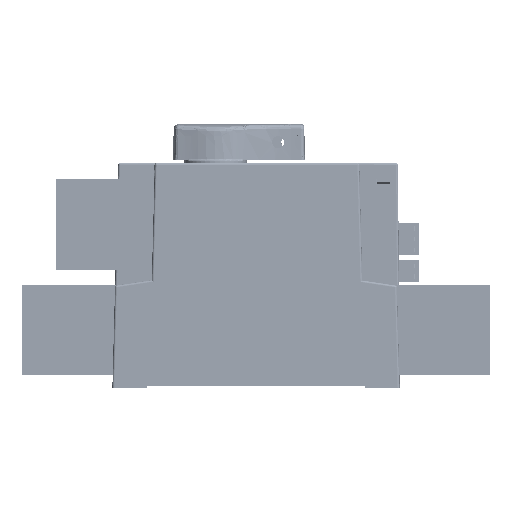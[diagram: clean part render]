
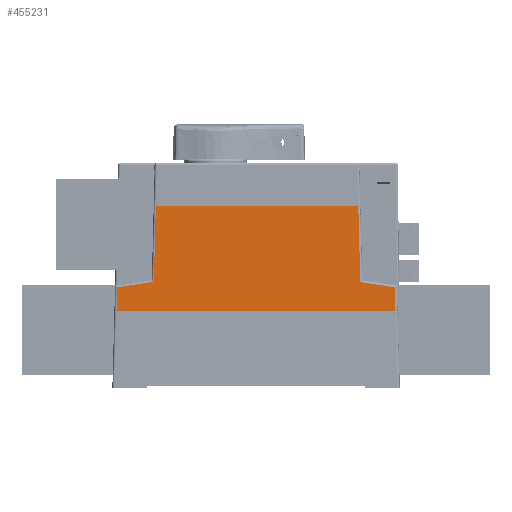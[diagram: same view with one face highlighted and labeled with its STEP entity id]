
A CAD part, left-side view. The second image highlights one B-rep face of the part: STEP entity #455231.
In plain terms, the highlighted planar face has unit normal (-1, 0, 0.018).
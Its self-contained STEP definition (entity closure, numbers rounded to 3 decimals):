
#4213 = CARTESIAN_POINT ( 'NONE',  ( -189.147, 48.022, 48.858 ) ) ;
#7079 = CARTESIAN_POINT ( 'NONE',  ( -188.525, 89.402, 84.5 ) ) ;
#7353 = CARTESIAN_POINT ( 'NONE',  ( -189.147, 48.022, 48.858 ) ) ;
#13095 = DIRECTION ( 'NONE',  ( 0., 1., 0. ) ) ;
#16766 = VERTEX_POINT ( 'NONE', #560322 ) ;
#33826 = LINE ( 'NONE', #272833, #526357 ) ;
#34478 = CARTESIAN_POINT ( 'NONE',  ( -188.091, 63.636, 109.371 ) ) ;
#42474 = VECTOR ( 'NONE', #183070, 1000. ) ;
#51282 = CARTESIAN_POINT ( 'NONE',  ( -188.525, 47.089, 84.5 ) ) ;
#59931 = EDGE_CURVE ( 'NONE', #273201, #16766, #477899, .T. ) ;
#75690 = VECTOR ( 'NONE', #170035, 1000. ) ;
#84478 = PLANE ( 'NONE',  #502205 ) ;
#87323 = LINE ( 'NONE', #437061, #284923 ) ;
#91863 = DIRECTION ( 'NONE',  ( 0.003, -0.989, 0.148 ) ) ;
#96871 = ORIENTED_EDGE ( 'NONE', *, *, #302541, .F. ) ;
#103120 = CARTESIAN_POINT ( 'NONE',  ( -189.15, -49.022, 48.708 ) ) ;
#108495 = VERTEX_POINT ( 'NONE', #225536 ) ;
#121924 = CARTESIAN_POINT ( 'NONE',  ( -188.525, -48.085, 84.5 ) ) ;
#124390 = DIRECTION ( 'NONE',  ( 0.017, 0.026, 1. ) ) ;
#125049 = LINE ( 'NONE', #7079, #533019 ) ;
#129648 = DIRECTION ( 'NONE',  ( 1., 0., -0.017 ) ) ;
#134949 = EDGE_CURVE ( 'NONE', #331216, #108495, #395168, .T. ) ;
#141877 = ORIENTED_EDGE ( 'NONE', *, *, #59931, .F. ) ;
#147157 = EDGE_CURVE ( 'NONE', #484271, #258263, #125049, .T. ) ;
#148631 = VECTOR ( 'NONE', #13095, 1000. ) ;
#170035 = DIRECTION ( 'NONE',  ( -0.017, 0.026, -1. ) ) ;
#171959 = EDGE_CURVE ( 'NONE', #253216, #108495, #490936, .T. ) ;
#183070 = DIRECTION ( 'NONE',  ( 0.017, -0.026, 1. ) ) ;
#220071 = DIRECTION ( 'NONE',  ( -0.017, -0.026, -1. ) ) ;
#222911 = ORIENTED_EDGE ( 'NONE', *, *, #558906, .F. ) ;
#225536 = CARTESIAN_POINT ( 'NONE',  ( -189.389, 65.584, 35. ) ) ;
#253216 = VERTEX_POINT ( 'NONE', #372547 ) ;
#258263 = VERTEX_POINT ( 'NONE', #331209 ) ;
#272046 = CARTESIAN_POINT ( 'NONE',  ( -189.389, -65.584, 35. ) ) ;
#272833 = CARTESIAN_POINT ( 'NONE',  ( -189.186, 62.778, 46.652 ) ) ;
#273201 = VERTEX_POINT ( 'NONE', #103120 ) ;
#282376 = CARTESIAN_POINT ( 'NONE',  ( -189.389, -65., 35. ) ) ;
#284923 = VECTOR ( 'NONE', #124390, 1000. ) ;
#288588 = VECTOR ( 'NONE', #220071, 1000. ) ;
#301011 = VERTEX_POINT ( 'NONE', #7353 ) ;
#302541 = EDGE_CURVE ( 'NONE', #301011, #484271, #436250, .T. ) ;
#315375 = ORIENTED_EDGE ( 'NONE', *, *, #134949, .F. ) ;
#331209 = CARTESIAN_POINT ( 'NONE',  ( -188.525, -48.085, 84.5 ) ) ;
#331216 = VERTEX_POINT ( 'NONE', #272046 ) ;
#332879 = ORIENTED_EDGE ( 'NONE', *, *, #397971, .T. ) ;
#351724 = LINE ( 'NONE', #121924, #288588 ) ;
#359493 = DIRECTION ( 'NONE',  ( -0.017, 0., -1. ) ) ;
#372547 = CARTESIAN_POINT ( 'NONE',  ( -189.192, 65.288, 46.277 ) ) ;
#394490 = ORIENTED_EDGE ( 'NONE', *, *, #553579, .F. ) ;
#395168 = LINE ( 'NONE', #282376, #148631 ) ;
#397971 = EDGE_CURVE ( 'NONE', #331216, #16766, #87323, .T. ) ;
#407121 = ORIENTED_EDGE ( 'NONE', *, *, #147157, .F. ) ;
#434682 = FACE_OUTER_BOUND ( 'NONE', #505879, .T. ) ;
#436250 = LINE ( 'NONE', #4213, #42474 ) ;
#437061 = CARTESIAN_POINT ( 'NONE',  ( -188.15, -63.725, 105.97 ) ) ;
#441013 = DIRECTION ( 'NONE',  ( -0.003, -0.989, -0.148 ) ) ;
#455231 = ADVANCED_FACE ( 'NONE', ( #434682 ), #84478, .F. ) ;
#462516 = ORIENTED_EDGE ( 'NONE', *, *, #171959, .T. ) ;
#470577 = VECTOR ( 'NONE', #441013, 1000. ) ;
#477899 = LINE ( 'NONE', #578727, #470577 ) ;
#484271 = VERTEX_POINT ( 'NONE', #51282 ) ;
#490936 = LINE ( 'NONE', #34478, #75690 ) ;
#502205 = AXIS2_PLACEMENT_3D ( 'NONE', #580047, #129648, #359493 ) ;
#505879 = EDGE_LOOP ( 'NONE', ( #222911, #462516, #315375, #332879, #141877, #394490, #407121, #96871 ) ) ;
#506311 = DIRECTION ( 'NONE',  ( 0., -1., 0. ) ) ;
#526357 = VECTOR ( 'NONE', #91863, 1000. ) ;
#533019 = VECTOR ( 'NONE', #506311, 1000. ) ;
#553579 = EDGE_CURVE ( 'NONE', #258263, #273201, #351724, .T. ) ;
#558906 = EDGE_CURVE ( 'NONE', #253216, #301011, #33826, .T. ) ;
#560322 = CARTESIAN_POINT ( 'NONE',  ( -189.192, -65.288, 46.277 ) ) ;
#578727 = CARTESIAN_POINT ( 'NONE',  ( -189.15, -49.022, 48.708 ) ) ;
#580047 = CARTESIAN_POINT ( 'NONE',  ( -188.15, -65., 106.003 ) ) ;
